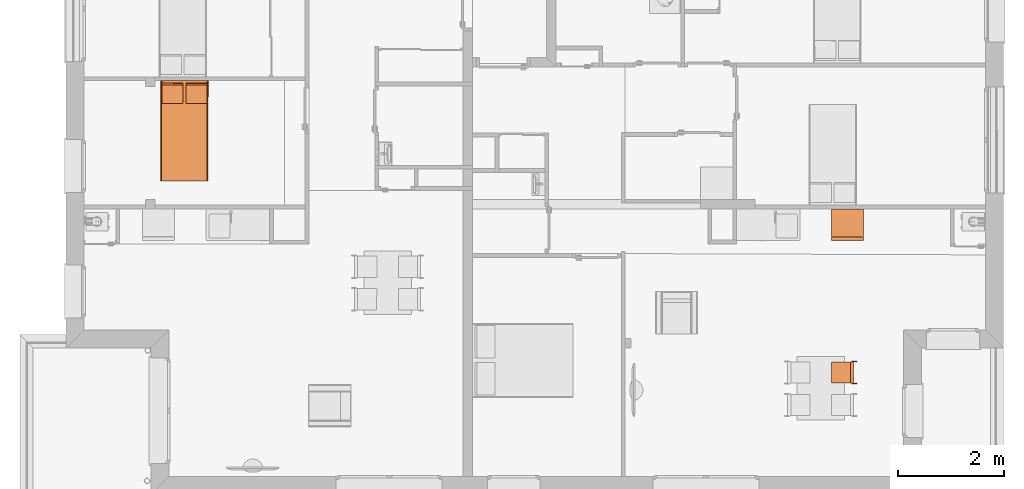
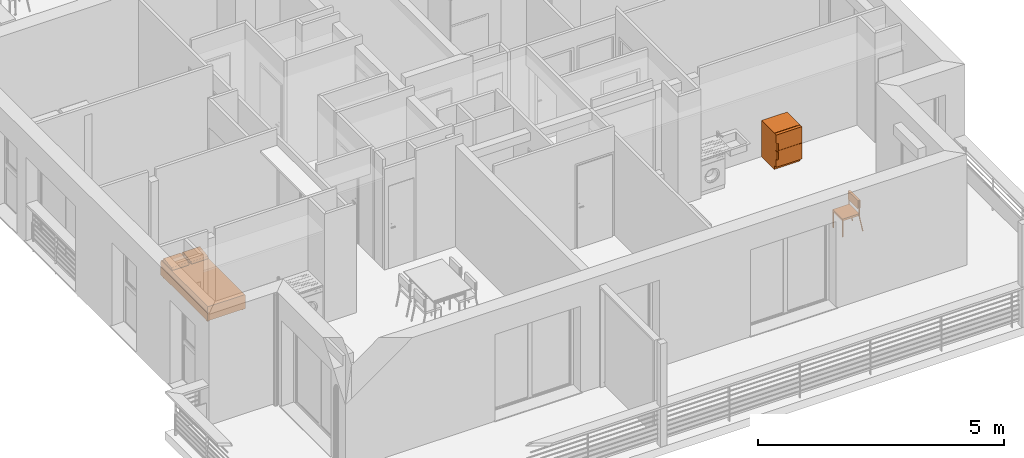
# One storey, part 140 of 164: 3 proxies.
"""IFC2X3 building model written with IfcOpenShell, lengths in millimetres."""

import ifcopenshell
import ifcopenshell.guid

model = None  # the IFC model being written
_history = None  # IfcOwnerHistory: only IFC2X3 demands one
_inside = {}  # id of a spatial element -> (the spatial element, [elements in it])
_under = {}  # id of a project, library or spatial element -> (it, [spatial elements below it])
_declared = {}  # id of a project -> (the project, [libraries it declares])
_typed = {}  # id of a type object -> (the type object, [elements of that type])
_made_of = {}  # id of a material, layer set ... -> (it, [elements and type objects made of it])


def new_model(schema):
    """Start an empty IFC model of exactly this schema.

    Asked for "IFC4X3", IfcOpenShell would pick the latest addendum, in which some entities
    have other attributes; the version numbers below select the first issue.
    IFC2X3 requires an IfcOwnerHistory on every rooted entity: one is made here for all.
    """
    global model, _history
    if schema == "IFC4X3":
        model = ifcopenshell.file(schema_version=(4, 3, 0, 0))
    else:
        model = ifcopenshell.file(schema=schema)
    _inside.clear()
    _under.clear()
    _declared.clear()
    _typed.clear()
    _made_of.clear()
    _history = None
    if model.schema == "IFC2X3":
        org = make("IfcOrganization", Name="unknown")
        user = make(
            "IfcPersonAndOrganization",
            ThePerson=make("IfcPerson", FamilyName="unknown"),
            TheOrganization=org,
        )
        app = make(
            "IfcApplication",
            ApplicationDeveloper=org,
            Version="unknown",
            ApplicationFullName="unknown",
            ApplicationIdentifier="unknown",
        )
        _history = make(
            "IfcOwnerHistory",
            OwningUser=user,
            OwningApplication=app,
            ChangeAction="ADDED",
            CreationDate=0,
        )
    return model


def make(cls, **values):
    """One entity of the class cls with the attributes given. An attribute that is None is left unset."""
    return model.create_entity(
        cls, **{name: value for name, value in values.items() if value is not None}
    )


def entity(cls, *values):
    """Any entity or typed value of the class cls, its attributes in the order of the schema. None: left unset."""
    e = model.create_entity(cls)
    for i, value in enumerate(values):
        if value is not None:
            e[i] = value
    return e


def rooted(cls, **values):
    """An entity with a GlobalId (a new one), such as an element, a storey or a relation."""
    return make(cls, GlobalId=ifcopenshell.guid.new(), OwnerHistory=_history, **values)


def si_unit(unit_type, name, prefix=None):
    """IfcSIUnit, for example si_unit("LENGTHUNIT", "METRE", prefix="MILLI")."""
    return make("IfcSIUnit", UnitType=unit_type, Prefix=prefix, Name=name)


def converted_unit(unit_type, name, factor, base, dimensions=None, offset=None):
    """IfcConversionBasedUnit, such as the inch: factor (a typed value) times the base unit."""
    return make(
        "IfcConversionBasedUnit"
        if offset is None
        else "IfcConversionBasedUnitWithOffset",
        ConversionOffset=offset,
        Dimensions=None
        if dimensions is None
        else entity("IfcDimensionalExponents", *dimensions),
        UnitType=unit_type,
        Name=name,
        ConversionFactor=make(
            "IfcMeasureWithUnit", ValueComponent=factor, UnitComponent=base
        ),
    )


def derived_unit(unit_type, elements):
    """IfcDerivedUnit: a product of units, each with its exponent."""
    return make(
        "IfcDerivedUnit",
        Elements=[
            make("IfcDerivedUnitElement", Unit=unit, Exponent=power)
            for unit, power in elements
        ],
        UnitType=unit_type,
    )


def money_unit(currency):
    """IfcMonetaryUnit."""
    return make("IfcMonetaryUnit", Currency=currency)


def assignment(units):
    """IfcUnitAssignment: the units of a project."""
    return None if units is None else make("IfcUnitAssignment", Units=units)


def point(xyz):
    """IfcCartesianPoint."""
    return None if xyz is None else make("IfcCartesianPoint", Coordinates=xyz)


def direction(xyz):
    """IfcDirection."""
    return None if xyz is None else make("IfcDirection", DirectionRatios=xyz)


def frame(location, z_axis=None, x_axis=None):
    """IfcAxis2Placement3D, a coordinate frame: its origin and axes. An axis left out is left unset."""
    return make(
        "IfcAxis2Placement3D",
        Location=point(location),
        Axis=direction(z_axis),
        RefDirection=direction(x_axis),
    )


def origin_with_axes():
    """The frame at (0, 0, 0) with the z axis (0, 0, 1) and the x axis (1, 0, 0) written out."""
    return frame((0.0, 0.0, 0.0), z_axis=(0.0, 0.0, 1.0), x_axis=(1.0, 0.0, 0.0))


def place(relative_to, where):
    """IfcLocalPlacement: puts the frame where relative to a parent placement (None: the world)."""
    return make(
        "IfcLocalPlacement", PlacementRelTo=relative_to, RelativePlacement=where
    )


def context(
    kind, dimensions, precision=None, world=None, true_north=None, identifier=None
):
    """IfcGeometricRepresentationContext, for example the 3D "Model" context."""
    return make(
        "IfcGeometricRepresentationContext",
        ContextIdentifier=identifier,
        ContextType=kind,
        CoordinateSpaceDimension=dimensions,
        Precision=precision,
        WorldCoordinateSystem=world,
        TrueNorth=true_north,
    )


def subcontext(parent, identifier, kind, view, scale=None):
    """IfcGeometricRepresentationSubContext, for example "Body" below "Model"."""
    return make(
        "IfcGeometricRepresentationSubContext",
        ContextIdentifier=identifier,
        ContextType=kind,
        ParentContext=parent,
        TargetScale=scale,
        TargetView=view,
    )


def project(units=None, contexts=None):
    """IfcProject with its units and contexts."""
    return rooted(
        "IfcProject",
        Name="project",
        RepresentationContexts=contexts,
        UnitsInContext=assignment(units),
    )


def spatial(cls, under=None, at=None, **own):
    """A site, building, storey or space (cls), placed at a placement, below another one or the project."""
    s = rooted(cls, ObjectPlacement=at, **own)
    if under is not None:
        _under.setdefault(under.id(), (under, []))[1].append(s)
    return s


def faces_of(points, faces, orient=None, outer=None):
    """IfcFace entities. A face is a list of loops; a loop is a list of indices into points, from 0.

    orient and outer hold one flag for each loop. By default every Orientation is true, the
    first loop of a face is its IfcFaceOuterBound and the others are IfcFaceBound.
    """
    made = []
    for i, loops in enumerate(faces):
        bounds = []
        for j, loop in enumerate(loops):
            is_outer = j == 0 if outer is None else outer[i][j]
            bounds.append(
                make(
                    "IfcFaceOuterBound" if is_outer else "IfcFaceBound",
                    Bound=make("IfcPolyLoop", Polygon=[points[k] for k in loop]),
                    Orientation=True if orient is None else orient[i][j],
                )
            )
        made.append(make("IfcFace", Bounds=bounds))
    return made


def open_shell(faces, orient=None, outer=None):
    """The faces of one IfcOpenShell. surface_model builds it on its shared points."""
    return ("IfcOpenShell", faces, orient, outer)


def faceted_brep(points, faces, orient=None, outer=None, voids=None):
    """IfcFacetedBrep: a solid bounded by flat faces; with voids (closed shells), ...WithVoids."""
    shared = [point(p) for p in points]
    hull = make("IfcClosedShell", CfsFaces=faces_of(shared, faces, orient, outer))
    if voids is None:
        return make("IfcFacetedBrep", Outer=hull)
    return make(
        "IfcFacetedBrepWithVoids",
        Outer=hull,
        Voids=[
            make(cls, CfsFaces=faces_of(shared, fs, o, b)) for cls, fs, o, b in voids
        ],
    )


def surface_model(cls, points, shells):
    """IfcFaceBasedSurfaceModel or IfcShellBasedSurfaceModel (cls): surfaces that need not close."""
    shared = [point(p) for p in points]
    made = [make(c, CfsFaces=faces_of(shared, fs, o, b)) for c, fs, o, b in shells]
    if cls == "IfcFaceBasedSurfaceModel":
        return make(cls, FbsmFaces=made)
    return make(cls, SbsmBoundary=made)


def shape(context_of_items, identifier, shape_type, items):
    """IfcShapeRepresentation: the items that make up one representation, for example the "Body"."""
    return make(
        "IfcShapeRepresentation",
        ContextOfItems=context_of_items,
        RepresentationIdentifier=identifier,
        RepresentationType=shape_type,
        Items=items,
    )


def source(mapping_origin, context_of_items, identifier, shape_type, items):
    """IfcRepresentationMap: a shape defined once, which mapped items show again and again."""
    return make(
        "IfcRepresentationMap",
        MappingOrigin=mapping_origin,
        MappedRepresentation=shape(context_of_items, identifier, shape_type, items),
    )


def transform(
    local_origin,
    x_axis=None,
    y_axis=None,
    z_axis=None,
    scale=None,
    scale2=None,
    scale3=None,
    uniform=True,
):
    """IfcCartesianTransformationOperator3D, or its non-uniform kind. x_axis, y_axis, z_axis: its Axis1, 2, 3."""
    if uniform:
        return make(
            "IfcCartesianTransformationOperator3D",
            Axis1=direction(x_axis),
            Axis2=direction(y_axis),
            LocalOrigin=point(local_origin),
            Scale=scale,
            Axis3=direction(z_axis),
        )
    return make(
        "IfcCartesianTransformationOperator3DnonUniform",
        Axis1=direction(x_axis),
        Axis2=direction(y_axis),
        LocalOrigin=point(local_origin),
        Scale=scale,
        Axis3=direction(z_axis),
        Scale2=scale2,
        Scale3=scale3,
    )


def mapped(mapping_source, mapping_target):
    """IfcMappedItem: shows the shape of a source again, moved by a transform."""
    return make(
        "IfcMappedItem", MappingSource=mapping_source, MappingTarget=mapping_target
    )


def made_of(thing, what):
    """Note that an element or type object is made of a material, layer set ...; save() writes the relation."""
    if what is not None:
        _made_of.setdefault(what.id(), (what, []))[1].append(thing)
    return thing


def type_object(cls, material=None, **own):
    """A type object (cls), such as IfcWallType, which elements share."""
    return made_of(rooted(cls, **own), material)


def element(
    cls,
    number,
    at=None,
    inside=None,
    cuts=None,
    type_object=None,
    material=None,
    context=None,
    identifier="Body",
    shape_type=None,
    held_by="IfcProductDefinitionShape",
    body=None,
    shapes=None,
    **own,
):
    """One element of the class cls, such as IfcWall. Its Tag is "e" and its number.

    at: its placement. inside: the storey or other place that contains it. cuts: it is an
    opening in that element (IfcRelVoidsElement). A single representation is given by context,
    identifier, shape_type and body (its items); several are given by shapes. held_by: the class
    of the entity that holds the representations. save() writes the other relations.
    """
    e = rooted(cls, Tag="e%d" % number, ObjectPlacement=at, **own)
    if body is not None:
        shapes = [shape(context, identifier, shape_type, body)]
    if shapes is not None:
        e.Representation = make(held_by, Representations=shapes)
    if inside is not None:
        _inside.setdefault(inside.id(), (inside, []))[1].append(e)
    if cuts is not None:
        rooted(
            "IfcRelVoidsElement", RelatingBuildingElement=cuts, RelatedOpeningElement=e
        )
    if type_object is not None:
        _typed.setdefault(type_object.id(), (type_object, []))[1].append(e)
    return made_of(e, material)


def aggregate(whole, parts):
    """IfcRelAggregates: a whole, such as a stair, and the parts it consists of."""
    return rooted("IfcRelAggregates", RelatingObject=whole, RelatedObjects=parts)


def save(model, path):
    """Write the relations noted so far, then the file.

    IfcRelAggregates (storeys below a building ...), IfcRelContainedInSpatialStructure (elements
    in a storey), IfcRelDefinesByType, IfcRelAssociatesMaterial and IfcRelDeclares: one each for
    every whole, place, type object, material and project.
    """
    for whole, parts in _under.values():
        aggregate(whole, parts)
    for where, things in _inside.values():
        rooted(
            "IfcRelContainedInSpatialStructure",
            RelatedElements=things,
            RelatingStructure=where,
        )
    for kind, things in _typed.values():
        rooted("IfcRelDefinesByType", RelatedObjects=things, RelatingType=kind)
    for what, things in _made_of.values():
        rooted("IfcRelAssociatesMaterial", RelatedObjects=things, RelatingMaterial=what)
    for by, libraries in _declared.values():
        rooted("IfcRelDeclares", RelatingContext=by, RelatedDefinitions=libraries)
    model.write(path)


model = new_model("IFC2X3")

# Units and contexts
model_context = context("Model", 3, precision=0.01, world=origin_with_axes(), true_north=direction((0.0, 1.0)))
body_context = subcontext(model_context, "Body", "Model", "MODEL_VIEW")
ifc_project = project(units=[si_unit("LENGTHUNIT", "METRE", prefix="MILLI"), si_unit("AREAUNIT", "SQUARE_METRE"), si_unit("VOLUMEUNIT", "CUBIC_METRE"), converted_unit("PLANEANGLEUNIT", "DEGREE", entity("IfcPlaneAngleMeasure", 0.0174532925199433), si_unit("PLANEANGLEUNIT", "RADIAN"), dimensions=[0, 0, 0, 0, 0, 0, 0]), money_unit("USD"), converted_unit("TIMEUNIT", "Year", entity("IfcTimeMeasure", 31557600.0), si_unit("TIMEUNIT", "SECOND"), dimensions=[0, 0, 1, 0, 0, 0, 0]), si_unit("MASSUNIT", "GRAM", prefix="KILO"), si_unit("THERMODYNAMICTEMPERATUREUNIT", "DEGREE_CELSIUS"), si_unit("LUMINOUSINTENSITYUNIT", "LUMEN"), si_unit("ENERGYUNIT", "JOULE", prefix="MEGA"), derived_unit("THERMALCONDUCTANCEUNIT", [(si_unit("POWERUNIT", "WATT"), 1), (si_unit("LENGTHUNIT", "METRE"), -1), (si_unit("THERMODYNAMICTEMPERATUREUNIT", "KELVIN"), -1)]), derived_unit("SPECIFICHEATCAPACITYUNIT", [(si_unit("ENERGYUNIT", "JOULE"), 1), (si_unit("MASSUNIT", "GRAM", prefix="KILO"), -1), (si_unit("THERMODYNAMICTEMPERATUREUNIT", "KELVIN"), -1)]), derived_unit("MASSDENSITYUNIT", [(si_unit("MASSUNIT", "GRAM", prefix="KILO"), 1), (si_unit("VOLUMEUNIT", "CUBIC_METRE"), -1)])], contexts=[model_context])

# Site, building, storey
site_placement = place(None, origin_with_axes())
site = spatial("IfcSite", under=ifc_project, at=site_placement, Name="Site", CompositionType="ELEMENT")
building_placement = place(site_placement, origin_with_axes())
building = spatial("IfcBuilding", under=site, at=building_placement, Name="Bâtiment", CompositionType="ELEMENT")
storey_placement = place(building_placement, frame((0.0, 0.0, 5750.0), z_axis=(0.0, 0.0, 1.0), x_axis=(1.0, 0.0, 0.0)))
storey = spatial("IfcBuildingStorey", under=building, at=storey_placement, Name="Etage1", CompositionType="ELEMENT", Elevation=5750.0)

# Proxies
building_element_proxy_type = type_object("IfcBuildingElementProxyType", PredefinedType="NOTDEFINED")
shared_shape_1 = source(origin_with_axes(), body_context, "Body", "Brep", [
    faceted_brep([(39.99999978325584, 0.0, 0.0), (19.99999989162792, 0.0, 0.0), (19.99999989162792, 19.99999936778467, 0.0), (39.99999978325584, 19.99999936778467, 0.0), (39.99999978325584, 0.0, 400.0), (19.99999989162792, 0.0, 400.0), (19.99999989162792, 19.99999936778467, 400.0), (39.99999978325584, 19.99999936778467, 400.0)], [[[0, 1, 2, 3]], [[1, 0, 4, 5]], [[2, 1, 5, 6]], [[3, 2, 6, 7]], [[0, 3, 7, 4]], [[5, 4, 7, 6]]]),
    faceted_brep([(419.9999977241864, 0.0, 0.0), (399.9999978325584, 0.0, 0.0), (399.9999978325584, 19.99999936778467, 0.0), (419.9999977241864, 19.99999936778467, 0.0), (419.9999977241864, 0.0, 400.0), (399.9999978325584, 0.0, 400.0), (399.9999978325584, 19.99999936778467, 400.0), (419.9999977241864, 19.99999936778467, 400.0)], [[[0, 1, 2, 3]], [[1, 0, 4, 5]], [[2, 1, 5, 6]], [[3, 2, 6, 7]], [[0, 3, 7, 4]], [[5, 4, 7, 6]]]),
    faceted_brep([(399.9999978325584, 0.0, 400.0000000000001), (39.99999978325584, 0.0, 400.0000000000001), (39.99999978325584, 19.99999936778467, 400.0000000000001), (399.9999978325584, 19.99999936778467, 400.0000000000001), (399.9999978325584, 0.0, 420.0000000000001), (39.99999978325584, 0.0, 420.0000000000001), (39.99999978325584, 19.99999936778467, 420.0000000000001), (399.9999978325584, 19.99999936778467, 420.0000000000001)], [[[0, 1, 2, 3]], [[1, 0, 4, 5]], [[2, 1, 5, 6]], [[3, 2, 6, 7]], [[0, 3, 7, 4]], [[5, 4, 7, 6]]]),
    faceted_brep([(39.99999978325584, 19.99999936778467, 400.0000000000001), (19.99999989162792, 19.99999936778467, 400.0000000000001), (19.99999989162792, 379.9999879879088, 400.0000000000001), (39.99999978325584, 379.9999879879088, 400.0000000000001), (39.99999978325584, 19.99999936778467, 420.0000000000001), (19.99999989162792, 19.99999936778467, 420.0000000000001), (19.99999989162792, 379.9999879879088, 420.0000000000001), (39.99999978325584, 379.9999879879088, 420.0000000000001)], [[[0, 1, 2, 3]], [[1, 0, 4, 5]], [[2, 1, 5, 6]], [[3, 2, 6, 7]], [[0, 3, 7, 4]], [[5, 4, 7, 6]]]),
    faceted_brep([(419.9999977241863, 379.9999879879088, 400.0000000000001), (19.99999989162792, 379.9999879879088, 400.0000000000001), (19.99999989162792, 399.9999873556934, 400.0000000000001), (419.9999977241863, 399.9999873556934, 400.0000000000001), (419.9999977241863, 379.9999879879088, 420.0000000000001), (19.99999989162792, 379.9999879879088, 420.0000000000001), (19.99999989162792, 399.9999873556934, 420.0000000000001), (419.9999977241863, 399.9999873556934, 420.0000000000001)], [[[0, 1, 2, 3]], [[1, 0, 4, 5]], [[2, 1, 5, 6]], [[3, 2, 6, 7]], [[0, 3, 7, 4]], [[5, 4, 7, 6]]]),
    faceted_brep([(419.9999977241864, 19.99999936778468, 400.0000000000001), (399.9999978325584, 19.99999936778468, 400.0000000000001), (399.9999978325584, 379.9999879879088, 400.0000000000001), (419.9999977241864, 379.9999879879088, 400.0000000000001), (419.9999977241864, 19.99999936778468, 420.0000000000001), (399.9999978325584, 19.99999936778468, 420.0000000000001), (399.9999978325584, 379.9999879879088, 420.0000000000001), (419.9999977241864, 379.9999879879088, 420.0000000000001)], [[[0, 1, 2, 3]], [[1, 0, 4, 5]], [[2, 1, 5, 6]], [[3, 2, 6, 7]], [[0, 3, 7, 4]], [[5, 4, 7, 6]]]),
    faceted_brep([(419.9999977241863, 0.0, 400.0), (19.99999989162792, 0.0, 400.0), (19.99999989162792, 399.9999873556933, 400.0), (419.9999977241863, 399.9999873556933, 400.0), (419.9999977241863, 0.0, 450.0), (19.99999989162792, 0.0, 450.0), (19.99999989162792, 399.9999873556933, 450.0), (419.9999977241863, 399.9999873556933, 450.0)], [[[0, 1, 2, 3]], [[1, 0, 4, 5]], [[2, 1, 5, 6]], [[3, 2, 6, 7]], [[0, 3, 7, 4]], [[5, 4, 7, 6]]]),
    faceted_brep([(19.99999989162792, 379.9999879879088, 380.0), (0.0, 379.9999879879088, 380.0), (0.0, 399.9999873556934, 380.0), (19.99999989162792, 399.9999873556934, 380.0), (19.99999989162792, 379.9999879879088, 780.0), (0.0, 379.9999879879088, 780.0), (0.0, 399.9999873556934, 780.0), (19.99999989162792, 399.9999873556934, 780.0)], [[[0, 1, 2, 3]], [[1, 0, 4, 5]], [[2, 1, 5, 6]], [[3, 2, 6, 7]], [[0, 3, 7, 4]], [[5, 4, 7, 6]]]),
    faceted_brep([(439.9999976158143, 379.9999879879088, 380.0), (419.9999977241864, 379.9999879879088, 380.0), (419.9999977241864, 399.9999873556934, 380.0), (439.9999976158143, 399.9999873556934, 380.0), (439.9999976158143, 379.9999879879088, 780.0), (419.9999977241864, 379.9999879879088, 780.0), (419.9999977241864, 399.9999873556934, 780.0), (439.9999976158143, 399.9999873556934, 780.0)], [[[0, 1, 2, 3]], [[1, 0, 4, 5]], [[2, 1, 5, 6]], [[3, 2, 6, 7]], [[0, 3, 7, 4]], [[5, 4, 7, 6]]]),
    faceted_brep([(419.9999977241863, 359.999988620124, 580.0000000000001), (19.99999989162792, 359.999988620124, 580.0000000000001), (19.99999989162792, 419.9999867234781, 580.0000000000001), (419.9999977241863, 419.9999867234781, 580.0000000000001), (419.9999977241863, 359.999988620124, 780.0), (19.99999989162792, 359.999988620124, 780.0), (19.99999989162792, 419.9999867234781, 780.0), (419.9999977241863, 419.9999867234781, 780.0)], [[[0, 1, 2, 3]], [[1, 0, 4, 5]], [[2, 1, 5, 6]], [[3, 2, 6, 7]], [[0, 3, 7, 4]], [[5, 4, 7, 6]]]),
    faceted_brep([(19.99999989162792, 459.9999854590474, 0.0), (0.0, 459.9999854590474, 0.0), (0.0, 479.5709559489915, 4.120326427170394), (19.99999989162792, 479.5709559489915, 4.120326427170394), (19.99999989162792, 379.997669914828, 379.999760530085), (0.0, 379.997669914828, 379.999760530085), (0.0, 399.5686404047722, 384.1200869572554), (19.99999989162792, 399.5686404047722, 384.1200869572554)], [[[0, 1, 2, 3]], [[1, 0, 4, 5]], [[2, 1, 5, 6]], [[3, 2, 6, 7]], [[0, 3, 7, 4]], [[5, 4, 7, 6]]]),
    faceted_brep([(439.9999976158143, 459.9999854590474, 0.0), (419.9999977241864, 459.9999854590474, 0.0), (419.9999977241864, 479.5709559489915, 4.120326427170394), (439.9999976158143, 479.5709559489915, 4.120326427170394), (439.9999976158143, 379.997669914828, 379.999760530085), (419.9999977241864, 379.997669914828, 379.999760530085), (419.9999977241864, 399.5686404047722, 384.1200869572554), (439.9999976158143, 399.5686404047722, 384.1200869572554)], [[[0, 1, 2, 3]], [[1, 0, 4, 5]], [[2, 1, 5, 6]], [[3, 2, 6, 7]], [[0, 3, 7, 4]], [[5, 4, 7, 6]]]),
])
proxy_1_placement = place(storey_placement, frame((2231102.882433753, -655287.7460672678, 0.0), z_axis=(0.0, 0.0, 1.0), x_axis=(-8.510155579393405e-05, -0.9999999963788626, 0.0)))
element("IfcBuildingElementProxy", 1, at=proxy_1_placement, inside=storey, type_object=building_element_proxy_type, Name="Obj.-027", context=body_context, shape_type="MappedRepresentation", body=[
    mapped(shared_shape_1, transform((0.0, 0.0, 0.0))),
])
shared_shape_2 = source(origin_with_axes(), body_context, "Body", "SurfaceModel", [
    faceted_brep([(0.0, 80.0, 100.0), (0.0, 80.0, 900.0), (-600.0, 80.0, 900.0), (-600.0, 80.0, 100.0), (0.0, 600.0, 100.0), (0.0, 600.0, 900.0), (-600.0, 600.0, 900.0), (-600.0, 600.0, 100.0)], [[[0, 1, 2, 3]], [[4, 5, 1, 0]], [[1, 5, 6, 2]], [[3, 2, 6, 7]], [[0, 3, 7, 4]], [[7, 6, 5, 4]]]),
    faceted_brep([(0.0, 80.0, 0.0), (0.0, 80.0, 100.0), (-600.0, 80.0, 100.0), (-600.0, 80.0, 0.0), (0.0, 600.0, 0.0), (0.0, 600.0, 100.0), (-600.0, 600.0, 100.0), (-600.0, 600.0, 0.0)], [[[0, 1, 2, 3]], [[4, 5, 1, 0]], [[1, 5, 6, 2]], [[3, 2, 6, 7]], [[0, 3, 7, 4]], [[7, 6, 5, 4]]]),
    faceted_brep([(0.0, 70.0, 100.0), (0.0, 0.0, 100.0), (-600.0, 0.0, 100.0), (-600.0, 70.0, 100.0), (0.0, 70.00000000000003, 494.0), (0.0, 0.0, 494.0), (-600.0, 0.0, 494.0), (-600.0, 70.00000000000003, 494.0)], [[[0, 1, 2, 3]], [[4, 5, 1, 0]], [[1, 5, 6, 2]], [[3, 2, 6, 7]], [[0, 3, 7, 4]], [[7, 6, 5, 4]]]),
    faceted_brep([(0.0, 70.0, 500.0), (0.0, 0.0, 500.0), (-600.0, 0.0, 500.0), (-600.0, 70.0, 500.0), (0.0, 70.00000000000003, 900.0), (0.0, 0.0, 900.0), (-600.0, 0.0, 900.0), (-600.0, 70.00000000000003, 900.0)], [[[0, 1, 2, 3]], [[4, 5, 1, 0]], [[1, 5, 6, 2]], [[3, 2, 6, 7]], [[0, 3, 7, 4]], [[7, 6, 5, 4]]]),
    surface_model("IfcShellBasedSurfaceModel", [(-600.0, -30.0, 300.0000000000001), (-600.0, 0.0, 300.0000000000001), (-600.0, 0.0, 494.0000000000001), (-600.0, -30.0, 494.0000000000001)], [open_shell([[[0, 1, 2, 3]]])]),
    surface_model("IfcShellBasedSurfaceModel", [(-600.0, -30.0, 300.0000000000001), (-570.0, -30.0, 300.0000000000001), (-570.0, -30.0, 494.0000000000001), (-600.0, -30.0, 494.0000000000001)], [open_shell([[[0, 1, 2, 3]]])]),
    surface_model("IfcShellBasedSurfaceModel", [(-600.0, -30.0, 500.0), (-600.0, 0.0, 500.0), (-600.0, 0.0, 700.0), (-600.0, -30.0, 700.0)], [open_shell([[[0, 1, 2, 3]]])]),
    surface_model("IfcShellBasedSurfaceModel", [(-600.0, -30.0, 500.0), (-570.0, -30.0, 500.0), (-570.0, -30.0, 700.0), (-600.0, -30.0, 700.0)], [open_shell([[[0, 1, 2, 3]]])]),
])
proxy_2_placement = place(storey_placement, frame((2231705.292395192, -653016.3820488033, 0.0), z_axis=(0.0, 0.0, 1.0), x_axis=(0.9999965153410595, -0.002639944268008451, 0.0)))
element("IfcBuildingElementProxy", 2, at=proxy_2_placement, inside=storey, type_object=building_element_proxy_type, Name="Obj.-019", context=body_context, shape_type="MappedRepresentation", body=[
    mapped(shared_shape_2, transform((0.0, 0.0, 0.0))),
])
shared_shape_3 = source(origin_with_axes(), body_context, "Body", "SurfaceModel", [
    faceted_brep([(400.0, -95.0, 0.0), (400.0, -47.5, 0.0), (425.0000000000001, -47.5, 0.0), (425.0000000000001, -95.0, 0.0), (400.0, -95.0, 50.0), (400.0, -47.5, 50.0), (425.0000000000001, -47.5, 50.0), (425.0000000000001, -95.0, 50.0)], [[[0, 1, 2, 3]], [[0, 4, 5, 1]], [[1, 5, 6, 2]], [[2, 6, 7, 3]], [[3, 7, 4, 0]], [[7, 6, 5, 4]]]),
    faceted_brep([(400.0, -1852.5, 0.0), (400.0, -1805.0, 0.0), (425.0000000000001, -1805.0, 0.0), (425.0000000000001, -1852.5, 0.0), (400.0, -1852.5, 50.0), (400.0, -1805.0, 50.0), (425.0000000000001, -1805.0, 50.0), (425.0000000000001, -1852.5, 50.0)], [[[0, 1, 2, 3]], [[0, 4, 5, 1]], [[1, 5, 6, 2]], [[2, 6, 7, 3]], [[3, 7, 4, 0]], [[7, 6, 5, 4]]]),
    faceted_brep([(-425.0000000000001, -1852.5, 0.0), (-425.0000000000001, -1805.0, 0.0), (-400.0, -1805.0, 0.0), (-400.0, -1852.5, 0.0), (-425.0000000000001, -1852.5, 50.0), (-425.0000000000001, -1805.0, 50.0), (-400.0, -1805.0, 50.0), (-400.0, -1852.5, 50.0)], [[[0, 1, 2, 3]], [[0, 4, 5, 1]], [[1, 5, 6, 2]], [[2, 6, 7, 3]], [[3, 7, 4, 0]], [[7, 6, 5, 4]]]),
    faceted_brep([(-425.0000000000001, -94.99999999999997, 0.0), (-425.0000000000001, -47.49999999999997, 0.0), (-400.0, -47.49999999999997, 0.0), (-400.0, -94.99999999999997, 0.0), (-425.0000000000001, -94.99999999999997, 50.0), (-425.0000000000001, -47.49999999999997, 50.0), (-400.0, -47.49999999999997, 50.0), (-400.0, -94.99999999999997, 50.0)], [[[0, 1, 2, 3]], [[0, 4, 5, 1]], [[1, 5, 6, 2]], [[2, 6, 7, 3]], [[3, 7, 4, 0]], [[7, 6, 5, 4]]]),
    faceted_brep([(450.0, 0.0, 50.0), (450.0, -1900.0, 50.00000000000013), (-450.0, -1900.0, 50.00000000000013), (-450.0, 0.0, 50.0), (450.0, 0.0, 250.0), (450.0, -1900.0, 250.0000000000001), (-450.0, -1900.0, 250.0000000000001), (-450.0, 0.0, 250.0)], [[[0, 1, 2, 3]], [[4, 5, 1, 0]], [[1, 5, 6, 2]], [[3, 2, 6, 7]], [[0, 3, 7, 4]], [[7, 6, 5, 4]]]),
    surface_model("IfcShellBasedSurfaceModel", [(-425.0000000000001, 0.0, 250.0), (-425.0000000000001, -1900.0, 250.0000000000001), (-429.3412044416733, -1900.0, 250.7596123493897), (-429.3412044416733, 0.0, 250.7596123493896), (425.0000000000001, -1900.0, 250.0000000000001), (429.3412044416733, -1900.0, 250.7596123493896), (433.5505035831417, -1900.0, 253.0153689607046), (437.5, -1900.0, 256.6987298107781), (441.0696902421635, -1900.0, 261.6977778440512), (444.1511110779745, -1900.0, 267.8606195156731), (446.650635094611, -1900.0, 275.0000000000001), (448.4923155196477, -1900.0, 282.8989928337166), (449.6201938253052, -1900.0, 291.3175911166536), (450.0, -1900.0, 300.0000000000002), (450.0000000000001, -1900.0, 350.0000000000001), (449.6201938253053, -1900.0, 358.6824088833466), (448.4923155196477, -1900.0, 367.1010071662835), (446.650635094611, -1900.0, 375.0000000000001), (444.1511110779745, -1900.0, 382.1393804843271), (441.0696902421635, -1900.0, 388.302222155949), (437.5000000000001, -1900.0, 393.3012701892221), (433.5505035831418, -1900.0, 396.9846310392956), (429.3412044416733, -1900.0, 399.2403876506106), (425.0000000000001, -1900.0, 400.0000000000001), (-425.0, -1900.0, 400.0000000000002), (-429.3412044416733, -1900.0, 399.2403876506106), (-433.5505035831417, -1900.0, 396.9846310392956), (-437.5, -1900.0, 393.3012701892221), (-441.0696902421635, -1900.0, 388.302222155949), (-444.1511110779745, -1900.0, 382.1393804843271), (-446.6506350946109, -1900.0, 375.0000000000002), (-448.4923155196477, -1900.0, 367.1010071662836), (-449.6201938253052, -1900.0, 358.6824088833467), (-450.0, -1900.0, 350.0000000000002), (-450.0, -1900.0, 300.0000000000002), (-449.6201938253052, -1900.0, 291.3175911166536), (-448.4923155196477, -1900.0, 282.8989928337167), (-446.650635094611, -1900.0, 275.0000000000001), (-444.1511110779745, -1900.0, 267.8606195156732), (-441.0696902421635, -1900.0, 261.6977778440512), (-437.5000000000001, -1900.0, 256.6987298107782), (-433.5505035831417, -1900.0, 253.0153689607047), (-433.5505035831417, 0.0, 253.0153689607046), (425.0000000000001, 0.0, 250.0), (-437.5000000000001, 0.0, 256.698729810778), (-441.0696902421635, 0.0, 261.6977778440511), (-444.1511110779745, 0.0, 267.8606195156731), (-446.650635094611, 0.0, 275.0), (-448.4923155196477, 0.0, 282.8989928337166), (-449.6201938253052, 0.0, 291.3175911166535), (-450.0, 0.0, 300.0000000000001), (-450.0, 0.0, 350.0000000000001), (-449.6201938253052, 0.0, 358.6824088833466), (-448.4923155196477, 0.0, 367.1010071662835), (-446.6506350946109, 0.0, 375.0000000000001), (-444.1511110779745, 0.0, 382.139380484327), (-441.0696902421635, 0.0, 388.3022221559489), (-437.5, 0.0, 393.301270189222), (-433.5505035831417, 0.0, 396.9846310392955), (-429.3412044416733, 0.0, 399.2403876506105), (-425.0, 0.0, 400.0000000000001), (425.0000000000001, 0.0, 400.0), (429.3412044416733, 0.0, 399.2403876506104), (433.5505035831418, 0.0, 396.9846310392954), (437.5000000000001, 0.0, 393.301270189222), (441.0696902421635, 0.0, 388.3022221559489), (444.1511110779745, 0.0, 382.139380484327), (446.650635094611, 0.0, 375.0), (448.4923155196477, 0.0, 367.1010071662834), (449.6201938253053, 0.0, 358.6824088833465), (450.0000000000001, 0.0, 350.0), (450.0, 0.0, 300.0000000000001), (449.6201938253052, 0.0, 291.3175911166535), (448.4923155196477, 0.0, 282.8989928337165), (446.650635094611, 0.0, 275.0), (444.1511110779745, 0.0, 267.860619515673), (441.0696902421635, 0.0, 261.6977778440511), (437.5, 0.0, 256.698729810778), (433.5505035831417, 0.0, 253.0153689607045), (429.3412044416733, 0.0, 250.7596123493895)], [open_shell([[[0, 1, 2, 3]], [[4, 5, 6, 7, 8, 9, 10, 11, 12, 13, 14, 15, 16, 17, 18, 19, 20, 21, 22, 23, 24, 25, 26, 27, 28, 29, 30, 31, 32, 33, 34, 35, 36, 37, 38, 39, 40, 41, 2, 1]], [[3, 2, 41, 42]], [[43, 0, 3, 42, 44, 45, 46, 47, 48, 49, 50, 51, 52, 53, 54, 55, 56, 57, 58, 59, 60, 61, 62, 63, 64, 65, 66, 67, 68, 69, 70, 71, 72, 73, 74, 75, 76, 77, 78, 79]], [[79, 5, 4, 43]], [[78, 6, 5, 79]], [[77, 7, 6, 78]], [[76, 8, 7, 77]], [[75, 9, 8, 76]], [[74, 10, 9, 75]], [[73, 11, 10, 74]], [[72, 12, 11, 73]], [[71, 13, 12, 72]], [[70, 14, 13, 71]], [[69, 15, 14, 70]], [[68, 16, 15, 69]], [[67, 17, 16, 68]], [[66, 18, 17, 67]], [[65, 19, 18, 66]], [[64, 20, 19, 65]], [[63, 21, 20, 64]], [[62, 22, 21, 63]], [[61, 23, 22, 62]], [[60, 24, 23, 61]], [[59, 25, 24, 60]], [[58, 26, 25, 59]], [[57, 27, 26, 58]], [[56, 28, 27, 57]], [[55, 29, 28, 56]], [[54, 30, 29, 55]], [[53, 31, 30, 54]], [[52, 32, 31, 53]], [[51, 33, 32, 52]], [[50, 34, 33, 51]], [[49, 35, 34, 50]], [[48, 36, 35, 49]], [[47, 37, 36, 48]], [[46, 38, 37, 47]], [[45, 39, 38, 46]], [[44, 40, 39, 45]], [[42, 41, 40, 44]]])]),
    faceted_brep([(-24.99999999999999, -47.49999999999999, 400.0), (-425.0, -47.50000000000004, 400.0000000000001), (-425.0, -47.50000000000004, 443.4000000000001), (-24.99999999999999, -47.49999999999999, 443.4), (-24.99999999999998, -427.5, 400.0), (-425.0, -427.5, 400.0000000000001), (-425.0, -427.6960812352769, 408.6954428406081), (-425.0, -426.4675711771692, 417.2966661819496), (-425.0, -423.8511300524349, 425.5469991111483), (-425.0, -419.924835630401, 433.2002417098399), (-425.0, -414.8058532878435, 440.0280119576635), (-425.0, -408.6469396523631, 445.826560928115), (-425.0, -401.6318841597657, 450.4228529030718), (-425.0, -393.9700245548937, 453.6797289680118), (-425.0, -385.89, 455.5000000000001), (-425.0, -100.8900000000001, 493.0000000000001), (-425.0, -92.85488048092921, 493.3370808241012), (-425.0, -84.88093291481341, 492.2422169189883), (-425.0, -77.19681007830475, 489.7468034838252), (-425.0, -70.02285403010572, 485.922396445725), (-425.0, -63.56477780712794, 480.878660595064), (-425.0, -58.00776660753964, 474.7602249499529), (-425.0, -53.51116760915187, 467.7425355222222), (-425.0, -50.20392069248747, 460.0268244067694), (-425.0, -48.18086109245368, 451.8343394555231), (-24.99999999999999, -48.18086109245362, 451.834339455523), (-24.99999999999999, -50.20392069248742, 460.0268244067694), (-24.99999999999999, -53.51116760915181, 467.7425355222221), (-24.99999999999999, -58.00776660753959, 474.7602249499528), (-24.99999999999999, -63.56477780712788, 480.878660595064), (-24.99999999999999, -70.02285403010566, 485.922396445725), (-24.99999999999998, -77.19681007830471, 489.7468034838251), (-24.99999999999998, -84.88093291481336, 492.2422169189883), (-24.99999999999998, -92.85488048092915, 493.3370808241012), (-24.99999999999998, -100.89, 493.0000000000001), (-24.99999999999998, -385.89, 455.5), (-24.99999999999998, -393.9700245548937, 453.6797289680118), (-24.99999999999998, -401.6318841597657, 450.4228529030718), (-24.99999999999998, -408.6469396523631, 445.826560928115), (-24.99999999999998, -414.8058532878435, 440.0280119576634), (-24.99999999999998, -419.9248356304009, 433.2002417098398), (-24.99999999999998, -423.8511300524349, 425.5469991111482), (-24.99999999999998, -426.4675711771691, 417.2966661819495), (-24.99999999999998, -427.6960812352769, 408.695442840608)], [[[0, 1, 2, 3]], [[4, 5, 1, 0]], [[1, 5, 6, 7, 8, 9, 10, 11, 12, 13, 14, 15, 16, 17, 18, 19, 20, 21, 22, 23, 24, 2]], [[3, 2, 24, 25]], [[0, 3, 25, 26, 27, 28, 29, 30, 31, 32, 33, 34, 35, 36, 37, 38, 39, 40, 41, 42, 43, 4]], [[43, 6, 5, 4]], [[42, 7, 6, 43]], [[41, 8, 7, 42]], [[40, 9, 8, 41]], [[39, 10, 9, 40]], [[38, 11, 10, 39]], [[37, 12, 11, 38]], [[36, 13, 12, 37]], [[35, 14, 13, 36]], [[34, 15, 14, 35]], [[33, 16, 15, 34]], [[32, 17, 16, 33]], [[31, 18, 17, 32]], [[30, 19, 18, 31]], [[29, 20, 19, 30]], [[28, 21, 20, 29]], [[27, 22, 21, 28]], [[26, 23, 22, 27]], [[25, 24, 23, 26]]]),
    faceted_brep([(425.0000000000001, -47.49999999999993, 399.9999999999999), (25.00000000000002, -47.49999999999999, 400.0), (25.00000000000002, -47.49999999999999, 443.4), (425.0000000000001, -47.49999999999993, 443.4), (425.0000000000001, -427.4999999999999, 399.9999999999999), (25.00000000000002, -427.4999999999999, 400.0), (25.00000000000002, -427.6960812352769, 408.695442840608), (25.00000000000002, -426.4675711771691, 417.2966661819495), (25.00000000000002, -423.8511300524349, 425.5469991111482), (25.00000000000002, -419.9248356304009, 433.2002417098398), (25.00000000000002, -414.8058532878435, 440.0280119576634), (25.00000000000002, -408.6469396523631, 445.826560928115), (25.00000000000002, -401.6318841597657, 450.4228529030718), (25.00000000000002, -393.9700245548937, 453.6797289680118), (25.00000000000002, -385.8899999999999, 455.5), (25.00000000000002, -100.89, 493.0000000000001), (25.00000000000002, -92.85488048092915, 493.3370808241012), (25.00000000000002, -84.88093291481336, 492.2422169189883), (25.00000000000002, -77.19681007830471, 489.7468034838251), (25.00000000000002, -70.02285403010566, 485.922396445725), (25.00000000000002, -63.56477780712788, 480.878660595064), (25.00000000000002, -58.00776660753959, 474.7602249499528), (25.00000000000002, -53.51116760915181, 467.7425355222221), (25.00000000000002, -50.20392069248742, 460.0268244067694), (25.00000000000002, -48.18086109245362, 451.834339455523), (425.0000000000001, -48.18086109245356, 451.834339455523), (425.0000000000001, -50.20392069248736, 460.0268244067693), (425.0000000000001, -53.51116760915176, 467.7425355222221), (425.0000000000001, -58.00776660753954, 474.7602249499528), (425.0000000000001, -63.56477780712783, 480.8786605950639), (425.0000000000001, -70.0228540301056, 485.9223964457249), (425.0000000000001, -77.19681007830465, 489.7468034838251), (425.0000000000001, -84.8809329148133, 492.2422169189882), (425.0000000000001, -92.8548804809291, 493.3370808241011), (425.0000000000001, -100.89, 493.0), (425.0000000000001, -385.8899999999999, 455.4999999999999), (425.0000000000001, -393.9700245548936, 453.6797289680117), (425.0000000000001, -401.6318841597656, 450.4228529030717), (425.0000000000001, -408.646939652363, 445.8265609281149), (425.0000000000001, -414.8058532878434, 440.0280119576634), (425.0000000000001, -419.9248356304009, 433.2002417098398), (425.0000000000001, -423.8511300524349, 425.5469991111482), (425.0000000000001, -426.4675711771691, 417.2966661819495), (425.0000000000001, -427.6960812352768, 408.6954428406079)], [[[0, 1, 2, 3]], [[4, 5, 1, 0]], [[1, 5, 6, 7, 8, 9, 10, 11, 12, 13, 14, 15, 16, 17, 18, 19, 20, 21, 22, 23, 24, 2]], [[3, 2, 24, 25]], [[0, 3, 25, 26, 27, 28, 29, 30, 31, 32, 33, 34, 35, 36, 37, 38, 39, 40, 41, 42, 43, 4]], [[43, 6, 5, 4]], [[42, 7, 6, 43]], [[41, 8, 7, 42]], [[40, 9, 8, 41]], [[39, 10, 9, 40]], [[38, 11, 10, 39]], [[37, 12, 11, 38]], [[36, 13, 12, 37]], [[35, 14, 13, 36]], [[34, 15, 14, 35]], [[33, 16, 15, 34]], [[32, 17, 16, 33]], [[31, 18, 17, 32]], [[30, 19, 18, 31]], [[29, 20, 19, 30]], [[28, 21, 20, 29]], [[27, 22, 21, 28]], [[26, 23, 22, 27]], [[25, 24, 23, 26]]]),
])
proxy_3_placement = place(storey_placement, frame((2218870.566280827, -649991.1808041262, 0.0), z_axis=(0.0, 0.0, 1.0), x_axis=(0.9999996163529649, -0.0008759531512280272, 0.0)))
element("IfcBuildingElementProxy", 3, at=proxy_3_placement, inside=storey, type_object=building_element_proxy_type, Name="Obj.-003", context=body_context, shape_type="MappedRepresentation", body=[
    mapped(shared_shape_3, transform((0.0, 0.0, 0.0))),
])

save(model, "model.ifc")
